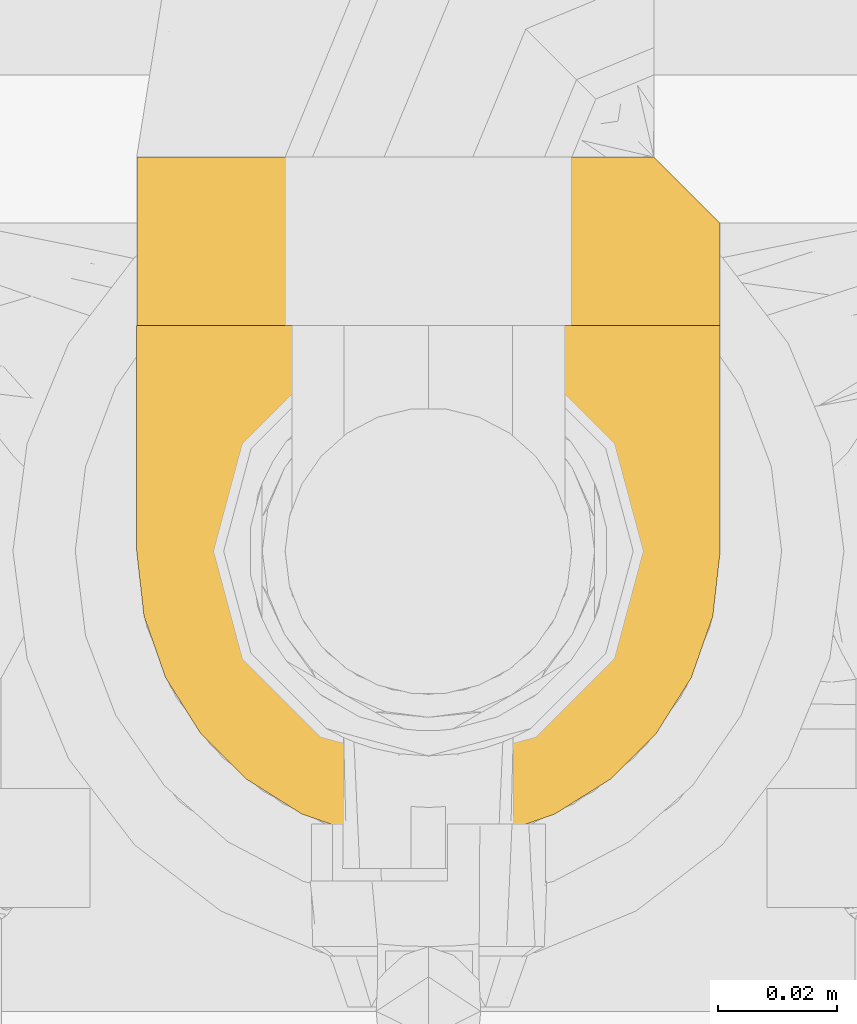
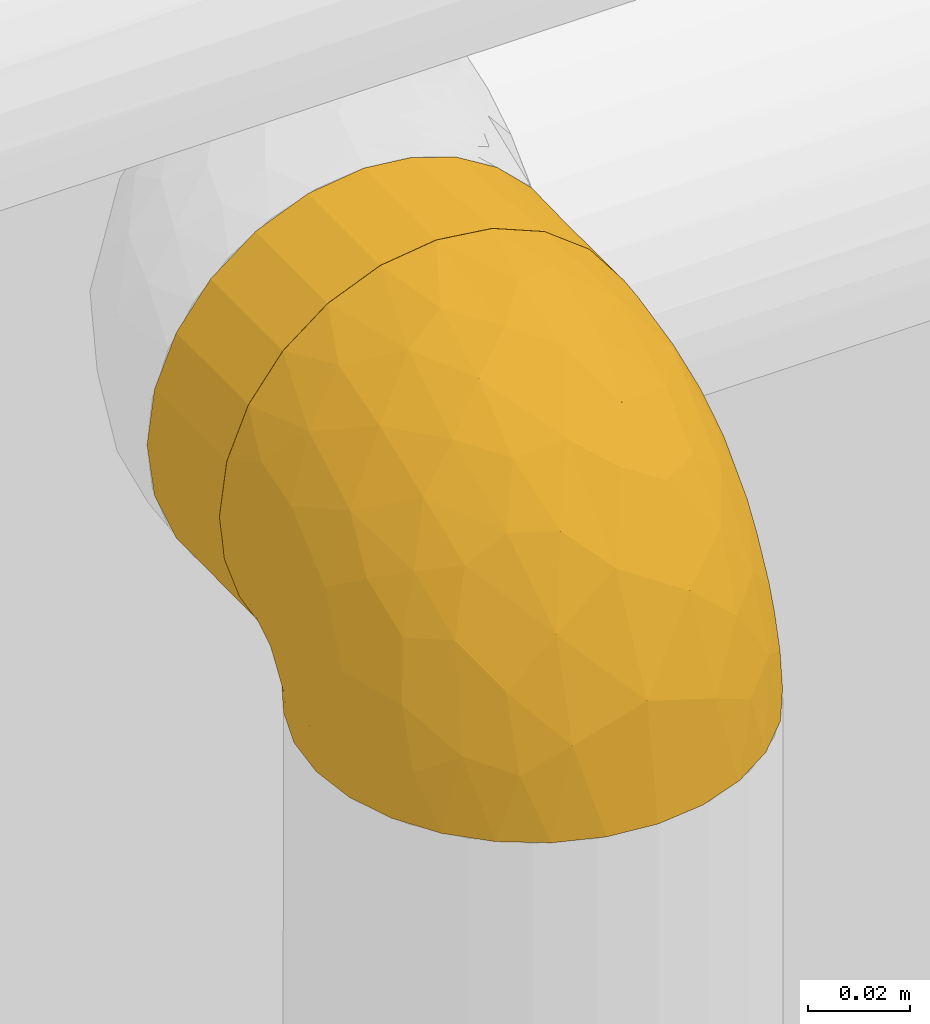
# One storey, part 20 of 94: 2 coverings.
"""IFC2X3 building model written with IfcOpenShell, lengths in millimetres."""

from ifc_helpers import new_model, entity, si_unit, converted_unit, derived_unit, direction, frame, origin, place, context, subcontext, project, spatial, faceted_brep, material, element, save


model = new_model("IFC2X3")

# Units and contexts
model_context = context("Model", 3, precision=0.01, world=origin(), true_north=direction((6.123031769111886e-17, 1.0)))
body_context = subcontext(model_context, "Body", "Model", "MODEL_VIEW")
ifc_project = project(units=[si_unit("LENGTHUNIT", "METRE", prefix="MILLI"), si_unit("AREAUNIT", "SQUARE_METRE"), si_unit("VOLUMEUNIT", "CUBIC_METRE"), converted_unit("PLANEANGLEUNIT", "DEGREE", entity("IfcRatioMeasure", 0.017453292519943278), si_unit("PLANEANGLEUNIT", "RADIAN"), dimensions=[0, 0, 0, 0, 0, 0, 0]), si_unit("MASSUNIT", "GRAM", prefix="KILO"), derived_unit("MASSDENSITYUNIT", [(si_unit("MASSUNIT", "GRAM", prefix="KILO"), 1), (si_unit("LENGTHUNIT", "METRE"), -3)]), derived_unit("IONCONCENTRATIONUNIT", [(si_unit("MASSUNIT", "GRAM", prefix="KILO"), 1), (si_unit("LENGTHUNIT", "METRE"), -3)]), derived_unit("MOMENTOFINERTIAUNIT", [(si_unit("LENGTHUNIT", "METRE"), 4)]), si_unit("TIMEUNIT", "SECOND"), si_unit("FREQUENCYUNIT", "HERTZ"), si_unit("THERMODYNAMICTEMPERATUREUNIT", "DEGREE_CELSIUS"), derived_unit("THERMALTRANSMITTANCEUNIT", [(si_unit("MASSUNIT", "GRAM", prefix="KILO"), 1), (si_unit("THERMODYNAMICTEMPERATUREUNIT", "KELVIN"), -1), (si_unit("TIMEUNIT", "SECOND"), -3)]), derived_unit("THERMALCONDUCTANCEUNIT", [(si_unit("MASSUNIT", "GRAM", prefix="KILO"), 1), (si_unit("THERMODYNAMICTEMPERATUREUNIT", "KELVIN"), -1), (si_unit("TIMEUNIT", "SECOND"), -3), (si_unit("LENGTHUNIT", "METRE"), 1)]), derived_unit("VOLUMETRICFLOWRATEUNIT", [(si_unit("LENGTHUNIT", "METRE"), 3), (si_unit("TIMEUNIT", "SECOND"), -1)]), derived_unit("MASSFLOWRATEUNIT", [(si_unit("MASSUNIT", "GRAM", prefix="KILO"), 1), (si_unit("TIMEUNIT", "SECOND"), -1)]), derived_unit("ROTATIONALFREQUENCYUNIT", [(si_unit("TIMEUNIT", "SECOND"), -1)]), si_unit("ELECTRICCURRENTUNIT", "AMPERE"), si_unit("ELECTRICVOLTAGEUNIT", "VOLT"), si_unit("POWERUNIT", "WATT"), si_unit("FORCEUNIT", "NEWTON", prefix="KILO"), si_unit("ILLUMINANCEUNIT", "LUX"), si_unit("LUMINOUSFLUXUNIT", "LUMEN"), si_unit("LUMINOUSINTENSITYUNIT", "CANDELA"), derived_unit("USERDEFINED", [(si_unit("MASSUNIT", "GRAM", prefix="KILO"), -1), (si_unit("LENGTHUNIT", "METRE"), -2), (si_unit("TIMEUNIT", "SECOND"), 3), (si_unit("LUMINOUSFLUXUNIT", "LUMEN"), 1)]), derived_unit("USERDEFINED", [(si_unit("MASSUNIT", "GRAM", prefix="KILO"), 1), (si_unit("TIMEUNIT", "SECOND"), -3), (si_unit("LENGTHUNIT", "METRE"), 3), (si_unit("ELECTRICCURRENTUNIT", "AMPERE"), -2)]), derived_unit("SOUNDPOWERUNIT", [(si_unit("MASSUNIT", "GRAM", prefix="KILO"), 1), (si_unit("TIMEUNIT", "SECOND"), -3), (si_unit("LENGTHUNIT", "METRE"), 2)]), derived_unit("SOUNDPRESSUREUNIT", [(si_unit("MASSUNIT", "GRAM", prefix="KILO"), 1), (si_unit("LENGTHUNIT", "METRE"), -1), (si_unit("TIMEUNIT", "SECOND"), -2)]), derived_unit("LINEARVELOCITYUNIT", [(si_unit("LENGTHUNIT", "METRE"), 1), (si_unit("TIMEUNIT", "SECOND"), -1)]), si_unit("PRESSUREUNIT", "PASCAL"), derived_unit("USERDEFINED", [(si_unit("MASSUNIT", "GRAM", prefix="KILO"), 1), (si_unit("LENGTHUNIT", "METRE"), -2), (si_unit("TIMEUNIT", "SECOND"), -2)]), derived_unit("LINEARFORCEUNIT", [(si_unit("MASSUNIT", "GRAM", prefix="KILO"), 1), (si_unit("TIMEUNIT", "SECOND"), -2)]), derived_unit("PLANARFORCEUNIT", [(si_unit("MASSUNIT", "GRAM", prefix="KILO"), 1), (si_unit("LENGTHUNIT", "METRE"), -1), (si_unit("TIMEUNIT", "SECOND"), -2)]), derived_unit("SPECIFICHEATCAPACITYUNIT", [(si_unit("THERMODYNAMICTEMPERATUREUNIT", "KELVIN"), -1), (si_unit("LENGTHUNIT", "METRE"), 2), (si_unit("TIMEUNIT", "SECOND"), -2)]), derived_unit("HEATINGVALUEUNIT", [(si_unit("LENGTHUNIT", "METRE"), 2), (si_unit("TIMEUNIT", "SECOND"), -2)]), derived_unit("VAPORPERMEABILITYUNIT", [(si_unit("LENGTHUNIT", "METRE"), -1), (si_unit("TIMEUNIT", "SECOND"), 1)]), derived_unit("DYNAMICVISCOSITYUNIT", [(si_unit("MASSUNIT", "GRAM", prefix="KILO"), 1), (si_unit("TIMEUNIT", "SECOND"), -1), (si_unit("LENGTHUNIT", "METRE"), -1)]), derived_unit("THERMALEXPANSIONCOEFFICIENTUNIT", [(si_unit("THERMODYNAMICTEMPERATUREUNIT", "KELVIN"), -1)]), derived_unit("MODULUSOFELASTICITYUNIT", [(si_unit("MASSUNIT", "GRAM", prefix="KILO"), 1), (si_unit("LENGTHUNIT", "METRE"), -1), (si_unit("TIMEUNIT", "SECOND"), -2)]), derived_unit("ISOTHERMALMOISTURECAPACITYUNIT", [(si_unit("LENGTHUNIT", "METRE"), 3), (si_unit("MASSUNIT", "GRAM", prefix="KILO"), -1)]), derived_unit("MOISTUREDIFFUSIVITYUNIT", [(si_unit("TIMEUNIT", "SECOND"), -1), (si_unit("LENGTHUNIT", "METRE"), 2)])], contexts=[model_context])

# Site, building, storey
site_placement = place(None, origin())
site = spatial("IfcSite", under=ifc_project, at=site_placement, Name="Default", CompositionType="ELEMENT")
building_placement = place(site_placement, origin())
building = spatial("IfcBuilding", under=site, at=building_placement, CompositionType="ELEMENT")
storey_placement = place(building_placement, origin())
storey = spatial("IfcBuildingStorey", under=building, at=storey_placement, Name="Niveau 0", CompositionType="ELEMENT", Elevation=0.0)

# Coverings
ifc_material = material(Name="Isolation - Laine minérale")
covering_1_placement = place(storey_placement, frame((-8622.871137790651, 9958.8752739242, 2600.7252722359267)))
element("IfcCovering", 1, at=covering_1_placement, inside=storey, material=ifc_material, Name="Isolation des canalisations:Laine minérale", ObjectType="Isolation des canalisations:Laine minérale", PredefinedType="INSULATION", context=body_context, shape_type="Brep", body=[
    faceted_brep([(12.012544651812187, 1.595272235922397, -80.97558831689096), (19.58435221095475, 1.5952722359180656, -88.72527223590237), (81.86619226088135, 1.5952722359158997, -88.72527223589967), (89.43799982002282, 1.5952722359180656, -80.9755883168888), (95.12737949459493, 1.5952722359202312, -71.75405657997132), (98.65694811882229, 1.5952722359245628, -61.51004608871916), (99.85527223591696, 1.5952722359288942, -50.72527223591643), (98.18120808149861, 1.5952722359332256, -38.00949255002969), (93.2731003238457, 1.595272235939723, -26.160272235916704), (85.46542839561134, 1.5952722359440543, -15.985116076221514), (75.29027223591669, 1.5952722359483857, -8.17744414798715), (63.4410519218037, 1.5952722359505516, -3.269336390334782), (50.72527223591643, 1.5952722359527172, -1.5952722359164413), (38.00949255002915, 1.5952722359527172, -3.269336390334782), (26.160272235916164, 1.5952722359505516, -8.17744414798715), (15.985116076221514, 1.5952722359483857, -15.985116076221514), (8.17744414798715, 1.5952722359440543, -26.160272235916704), (3.26933639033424, 1.595272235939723, -38.00949255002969), (1.5952722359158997, 1.5952722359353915, -50.72527223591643), (2.793596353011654, 1.5952722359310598, -61.510046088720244), (6.323164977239, 1.5952722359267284, -71.75405657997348), (61.51004608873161, 29.970350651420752, -98.65694811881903), (50.72527223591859, 29.970350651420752, -99.85527223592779), (38.00949255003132, 29.97035065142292, -98.18120808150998), (26.160272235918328, 29.970350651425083, -93.27310032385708), (15.98511607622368, 29.970350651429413, -85.46542839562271), (8.177444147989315, 29.970350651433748, -75.29027223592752), (3.269336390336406, 29.970350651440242, -63.44105192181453), (1.5952722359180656, 29.970350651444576, -50.7252722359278), (3.269336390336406, 29.970350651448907, -38.00949255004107), (8.177444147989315, 29.970350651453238, -26.160272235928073), (15.98511607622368, 29.97035065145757, -15.985116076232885), (26.160272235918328, 29.970350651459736, -8.17744414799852), (38.00949255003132, 29.9703506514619, -3.269336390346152), (50.72527223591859, 29.9703506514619, -1.5952722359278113), (61.5100460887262, 29.970350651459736, -2.7935963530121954), (71.75405657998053, 29.97035065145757, -6.323164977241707), (80.975588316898, 29.970350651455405, -12.012544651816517), (88.72527223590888, 29.97035065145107, -19.584352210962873), (88.72527223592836, 29.97035065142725, -81.86619226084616), (80.97558831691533, 29.97035065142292, -89.43799982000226), (71.75405657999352, 29.97035065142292, -95.12737949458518), (34.19020495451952, 9.85917230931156, -96.9891723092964), (42.33445912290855, 12.003444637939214, -99.13344463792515), (50.72527223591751, 12.725272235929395, -99.85527223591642), (26.531823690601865, 6.3554633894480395, -93.48546338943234), (59.116085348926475, 12.003444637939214, -99.1334446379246), (67.26033951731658, 9.859172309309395, -96.98917230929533), (74.91872078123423, 6.355463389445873, -93.48546338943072), (93.48546338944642, 25.21015949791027, -74.91872078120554), (96.98917230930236, 21.706450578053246, -67.26033951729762), (99.13344463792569, 19.562178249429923, -59.116085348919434), (99.85527223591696, 18.840350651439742, -50.72527223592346), (99.13344463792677, 19.56217824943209, -42.33445912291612), (96.98917230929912, 21.70645057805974, -34.190204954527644), (93.48546338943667, 25.210159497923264, -26.531823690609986)], [[[0, 1, 2, 3, 4, 5, 6, 7, 8, 9, 10, 11, 12, 13, 14, 15, 16, 17, 18, 19, 20]], [[21, 22, 23, 24, 25, 26, 27, 28, 29, 30, 31, 32, 33, 34, 35, 36, 37, 38, 39, 40, 41]], [[19, 28, 27]], [[27, 26, 20]], [[25, 0, 26]], [[18, 28, 19]], [[20, 19, 27]], [[0, 20, 26]], [[25, 1, 0]], [[42, 24, 23]], [[23, 22, 43]], [[44, 43, 22]], [[1, 25, 45]], [[43, 42, 23]], [[45, 24, 42]], [[45, 25, 24]], [[46, 22, 21]], [[21, 41, 47]], [[40, 48, 41]], [[46, 44, 22]], [[48, 47, 41]], [[2, 48, 40]], [[46, 21, 47]], [[40, 39, 2]], [[39, 49, 3]], [[50, 51, 5]], [[49, 50, 4]], [[3, 49, 4]], [[51, 6, 5]], [[5, 4, 50]], [[6, 51, 52]], [[39, 3, 2]], [[53, 54, 7]], [[8, 55, 9]], [[54, 55, 8]], [[52, 53, 6]], [[6, 53, 7]], [[54, 8, 7]], [[55, 38, 9]], [[10, 37, 36]], [[36, 35, 11]], [[34, 12, 35]], [[9, 37, 10]], [[11, 10, 36]], [[12, 11, 35]], [[37, 9, 38]], [[12, 34, 33, 13]], [[13, 33, 32, 14]], [[14, 32, 31, 15]], [[16, 30, 29, 17]], [[17, 29, 28, 18]], [[15, 31, 30, 16]], [[45, 42, 43, 44, 46, 47, 48, 2, 1]], [[38, 55, 54, 53, 52, 51, 50, 49, 39]]]),
])
covering_2_placement = place(storey_placement, frame((-8622.89113779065, 9871.725273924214, 2510.4047277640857)))
element("IfcCovering", 2, at=covering_2_placement, inside=storey, material=ifc_material, Name="Isolation des canalisations:Laine minérale", ObjectType="Isolation des canalisations:Laine minérale", PredefinedType="INSULATION", context=body_context, shape_type="Brep", body=[
    faceted_brep([(95.02415814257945, 29.412134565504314, 1.5952722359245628), (89.1663101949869, 20.093252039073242, 1.5952722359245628), (81.38263886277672, 12.312548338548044, 1.5952722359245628), (72.06354573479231, 6.459227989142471, 1.5952722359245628), (61.67593083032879, 2.826140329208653, 1.5952722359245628), (50.74527223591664, 1.5952722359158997, 1.5952722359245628), (39.802903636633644, 2.8288129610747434, 1.5952722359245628), (29.412134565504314, 6.466386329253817, 1.5952722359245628), (20.093252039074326, 12.324234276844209, 1.5952722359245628), (12.312548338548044, 20.107905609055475, 1.5952722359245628), (6.459227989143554, 29.426998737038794, 1.5952722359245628), (2.8261403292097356, 39.81461364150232, 1.5952722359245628), (1.5952722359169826, 50.74527223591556, 1.5952722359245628), (2.765001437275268, 61.40435822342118, 1.5952722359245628), (6.216868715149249, 71.55257335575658, 1.5952722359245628), (11.785042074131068, 80.70896636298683, 1.5952722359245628), (19.19437336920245, 88.43165280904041, 1.5952722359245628), (21.638642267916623, 88.43165280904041, 1.5952722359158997), (23.415694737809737, 88.43165280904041, 1.5952722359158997), (25.192747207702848, 88.43165280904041, 1.5952722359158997), (26.692340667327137, 88.43165280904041, 1.5952722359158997), (28.191934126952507, 88.43165280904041, 1.5952722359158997), (31.191121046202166, 88.43165280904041, 1.5952722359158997), (34.19030796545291, 88.43165280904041, 1.5952722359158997), (37.18949488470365, 88.43165280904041, 1.5952722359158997), (40.18868180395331, 88.43165280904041, 1.5952722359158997), (41.688275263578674, 88.43165280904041, 1.5952722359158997), (43.18786872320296, 88.43165280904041, 1.5952722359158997), (45.63213762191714, 88.43165280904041, 1.5952722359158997), (48.07640652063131, 88.43165280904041, 1.5952722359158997), (50.52067541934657, 88.43165280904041, 1.5952722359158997), (52.96494431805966, 88.43165280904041, 1.5952722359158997), (55.40921321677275, 88.43165280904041, 1.5952722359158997), (57.853482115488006, 88.43165280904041, 1.5952722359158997), (60.297751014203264, 88.43165280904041, 1.5952722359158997), (62.742019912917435, 88.43165280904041, 1.5952722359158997), (65.18628881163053, 88.43165280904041, 1.5952722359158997), (67.6305577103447, 88.43165280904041, 1.5952722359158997), (70.07482660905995, 88.43165280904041, 1.5952722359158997), (72.51909550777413, 88.43165280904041, 1.5952722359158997), (74.96336440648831, 88.43165280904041, 1.5952722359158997), (77.4076333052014, 88.43165280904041, 1.5952722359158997), (79.85190220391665, 88.43165280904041, 1.5952722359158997), (82.29617110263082, 88.43165280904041, 1.5952722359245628), (89.71827412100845, 80.69235262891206, 1.5952722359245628), (95.2836857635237, 71.53113811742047, 1.5952722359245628), (98.73008326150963, 61.3839004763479, 1.5952722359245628), (99.8952722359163, 50.74527223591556, 1.5952722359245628), (98.66173151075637, 39.80290363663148, 1.5952722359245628), (11.777056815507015, 88.74527223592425, 9.641963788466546), (6.211862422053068, 88.74527223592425, 18.798688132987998), (2.763298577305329, 88.74527223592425, 28.94385431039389), (1.5952722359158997, 88.74527223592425, 39.59527223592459), (3.2700178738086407, 88.74527223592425, 52.31622830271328), (8.180123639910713, 88.74527223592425, 64.17027223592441), (15.990973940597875, 88.74527223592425, 74.34957053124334), (26.17027223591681, 88.74527223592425, 82.16042083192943), (38.0243161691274, 88.74527223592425, 87.07052659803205), (50.74527223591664, 88.74527223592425, 88.74527223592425), (63.46622830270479, 88.74527223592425, 87.07052659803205), (75.32027223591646, 88.74527223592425, 82.16042083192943), (85.4995705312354, 88.74527223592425, 74.34957053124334), (93.31042083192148, 88.74527223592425, 64.17027223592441), (98.22052659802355, 88.74527223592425, 52.31622830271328), (99.8952722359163, 88.74527223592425, 39.59527223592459), (98.72724589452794, 88.74527223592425, 28.94385431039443), (95.2786820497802, 88.74527223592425, 18.798688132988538), (89.71348765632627, 88.74527223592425, 9.641963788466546), (82.29617110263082, 88.74527223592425, 1.9088916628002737), (79.85190220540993, 88.74527223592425, 1.9088916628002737), (78.35230874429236, 88.74527223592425, 1.9088916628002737), (76.3803775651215, 88.74527223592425, 1.9088916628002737), (74.40844638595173, 88.74527223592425, 1.9088916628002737), (72.43651520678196, 88.74527223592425, 1.9088916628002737), (70.46458402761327, 88.74527223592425, 1.9088916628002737), (68.4926528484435, 88.74527223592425, 1.9088916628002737), (66.52072166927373, 88.74527223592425, 1.9088916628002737), (64.54879049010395, 88.74527223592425, 1.9088916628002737), (62.57685931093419, 88.74527223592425, 1.9088916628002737), (60.6049281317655, 88.74527223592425, 1.9088916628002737), (58.632996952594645, 88.74527223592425, 1.9088916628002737), (56.66106577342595, 88.74527223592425, 1.9088916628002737), (54.68913459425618, 88.74527223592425, 1.9088916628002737), (52.71720341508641, 88.74527223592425, 1.9088916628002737), (50.74527223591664, 88.74527223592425, 1.9088916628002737), (48.773341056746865, 88.74527223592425, 1.9088916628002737), (46.80140987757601, 88.74527223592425, 1.9088916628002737), (44.8294786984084, 88.74527223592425, 1.9088916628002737), (42.85754751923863, 88.74527223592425, 1.9088916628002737), (40.88561634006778, 88.74527223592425, 1.908891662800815), (38.913685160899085, 88.74527223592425, 1.908891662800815), (36.94175398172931, 88.74527223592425, 1.9088916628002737), (34.96982280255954, 88.74527223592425, 1.9088916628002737), (31.970635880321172, 88.74527223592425, 1.9088916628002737), (28.971448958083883, 88.74527223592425, 1.9088916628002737), (26.5271800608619, 88.74527223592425, 1.9088916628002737), (24.082911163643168, 88.74527223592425, 1.9088916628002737), (21.638642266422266, 88.74527223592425, 1.9088916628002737), (19.19437336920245, 88.74527223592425, 1.908891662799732), (53.7533397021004, 88.53090125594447, 1.8241875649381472), (51.832765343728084, 88.52210831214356, 1.8156242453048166), (61.47290163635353, 88.52122178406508, 1.8147227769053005), (63.56282540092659, 88.5277799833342, 1.821224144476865), (48.00102702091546, 88.5409253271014, 1.8331787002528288), (77.2499939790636, 88.53506454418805, 1.828016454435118), (80.6991383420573, 88.49130573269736, 1.7792781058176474), (42.43807145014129, 88.51810292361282, 1.8114926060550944), (22.860776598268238, 88.52350981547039, 1.8170346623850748), (24.700216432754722, 88.52548149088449, 1.8189889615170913), (71.37008955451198, 88.5165327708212, 1.809830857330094), (73.40383885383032, 88.52674320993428, 1.820221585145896), (44.41000264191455, 88.5046900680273, 1.796462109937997), (37.92771907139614, 88.52964682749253, 1.8230063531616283), (39.81308540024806, 88.53317608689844, 1.8262968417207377), (35.95578792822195, 88.51585328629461, 1.8091041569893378), (49.75930651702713, 88.52914218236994, 1.8225274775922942), (21.027574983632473, 88.5259180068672, 1.8194169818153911), (55.67510065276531, 88.5366490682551, 1.8294378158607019), (67.50668767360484, 88.5374788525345, 1.8301744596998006), (65.61454699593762, 88.53273195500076, 1.8258883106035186), (34.10458092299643, 88.53426299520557, 1.8272900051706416), (57.55217518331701, 88.53370000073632, 1.8267767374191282), (79.10210557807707, 88.52350981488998, 1.8170346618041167), (75.39441218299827, 88.53493173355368, 1.8278964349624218), (82.29617110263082, 88.5235098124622, 1.8170346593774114), (82.29617110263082, 88.49487979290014, 1.747915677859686), (82.2961711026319, 88.46624977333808, 1.6787966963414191), (19.19437336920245, 88.5235098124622, 1.8170346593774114), (19.19437336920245, 88.59262879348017, 1.8456646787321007), (19.19437336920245, 88.66174777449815, 1.8742946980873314), (32.212157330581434, 88.51000647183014, 1.8026539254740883), (69.43559223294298, 88.5304248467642, 1.823740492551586), (46.24828797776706, 88.52246762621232, 1.81598755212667), (59.49061335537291, 88.52470424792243, 1.8182226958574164), (29.419252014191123, 88.50579329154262, 1.7977740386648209), (27.44213716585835, 88.52744143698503, 1.820897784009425), (82.29617110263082, 88.66174777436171, 1.8742946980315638), (82.29617110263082, 88.59262879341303, 1.845664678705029), (19.19437336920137, 88.46624977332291, 1.6787966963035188), (19.19437336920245, 88.49487979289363, 1.7479156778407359), (4.210283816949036, 85.22080157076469, 23.495219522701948), (8.74417984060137, 85.93611072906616, 13.747756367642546), (4.210283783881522, 81.07807843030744, 22.409779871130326), (9.955583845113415, 83.13289242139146, 10.562522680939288), (1.5952722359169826, 79.24527223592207, 37.049754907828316), (1.5952722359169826, 81.28890223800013, 37.59734391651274), (1.5952722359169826, 55.83630689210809, 20.595272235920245), (2.935497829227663, 66.39553001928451, 16.020149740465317), (4.213452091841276, 67.94040403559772, 9.261677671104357), (1.5952722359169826, 69.7452722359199, 34.50423757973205), (9.405305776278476, 80.67378389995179, 9.667897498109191), (9.963487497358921, 79.78892094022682, 7.202912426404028), (2.9356418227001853, 74.32109358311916, 23.94474674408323), (4.213452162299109, 66.85470593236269, 5.119390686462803), (8.750654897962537, 76.60336361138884, 4.402893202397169), (5.690627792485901, 79.64911936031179, 17.541506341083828), (1.5952722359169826, 52.74320051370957, 9.051642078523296), (1.5952722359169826, 53.290789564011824, 11.095272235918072), (4.482619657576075, 73.61168493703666, 16.72885944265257), (1.5952722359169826, 62.790789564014, 27.549754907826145), (5.766057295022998, 73.87988529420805, 12.071559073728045), (2.6117250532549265, 75.3291367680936, 47.62395095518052), (2.6575317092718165, 65.91074185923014, 44.00144112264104), (11.131578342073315, 53.84761415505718, 58.899698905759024), (20.824647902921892, 59.13651173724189, 72.66771487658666), (11.751954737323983, 71.16612245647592, 67.20155656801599), (5.33659242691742, 67.00545271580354, 54.07984229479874), (5.33659286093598, 78.88051287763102, 57.54110754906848), (50.74527223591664, 37.51978749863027, 72.10110329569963), (50.74527223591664, 61.81444117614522, 84.4798476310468), (40.3397395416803, 53.87520138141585, 80.24801351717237), (9.12424327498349, 25.78494399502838, 13.851436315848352), (4.35104531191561, 36.244182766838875, 15.165285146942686), (32.6469542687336, 29.562882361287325, 60.77765845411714), (23.76890934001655, 30.77068194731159, 55.385836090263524), (35.61531809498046, 15.292222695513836, 43.89737524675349), (41.69613385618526, 71.31385843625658, 86.12648113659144), (30.50981773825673, 47.24102741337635, 73.23168363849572), (21.748430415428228, 43.50389303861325, 64.7473857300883), (20.824647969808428, 75.28985257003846, 77.40373146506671), (31.9363827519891, 67.10273039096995, 82.14716981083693), (15.984346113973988, 37.099200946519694, 52.82911549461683), (9.50970334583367, 44.515176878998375, 48.878965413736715), (11.405769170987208, 33.70477633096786, 40.607220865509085), (3.723532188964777, 44.051694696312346, 28.76995319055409), (9.124242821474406, 30.04408126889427, 27.448445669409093), (15.984347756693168, 18.312338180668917, 19.800365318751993), (50.74527223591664, 5.860696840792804, 28.52610329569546), (34.505351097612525, 7.041406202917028, 22.71562192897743), (18.53593481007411, 25.61446965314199, 42.31748570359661), (24.58819413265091, 15.886915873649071, 33.6838277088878), (24.58819389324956, 10.600409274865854, 16.806973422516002), (39.07585882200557, 38.50378416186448, 71.0785805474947), (42.346184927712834, 25.345180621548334, 60.332491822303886), (2.5632520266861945, 53.16350413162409, 33.37332146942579), (50.74527223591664, 18.23944117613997, 52.82075697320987), (4.72244931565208, 52.69469876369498, 43.46542968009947), (69.55416102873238, 58.175892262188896, 79.2001746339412), (59.58510784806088, 71.7009127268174, 86.24488809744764), (59.865425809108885, 54.574333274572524, 80.83807017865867), (66.13789702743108, 42.49805076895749, 72.52816019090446), (69.55416221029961, 75.0623548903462, 83.87397883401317), (85.49332197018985, 24.525141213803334, 35.798660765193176), (78.98858976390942, 25.786342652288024, 48.02046276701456), (76.8874308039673, 15.878231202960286, 33.68736739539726), (85.49294527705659, 37.089792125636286, 52.83844921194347), (78.28666517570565, 35.7133620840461, 59.75598123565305), (97.13479117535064, 36.23150879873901, 15.170016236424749), (98.9530358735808, 70.53804152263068, 45.55141709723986), (99.8952722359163, 69.7452722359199, 34.50423757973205), (99.8952722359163, 79.24527223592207, 37.049754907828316), (66.97173870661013, 7.036299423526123, 22.71467774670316), (80.66589652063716, 69.2408611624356, 76.07714087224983), (92.35692696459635, 30.030512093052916, 27.45465165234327), (92.35692651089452, 25.770245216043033, 13.854008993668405), (89.7385894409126, 76.87540408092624, 68.47065883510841), (96.15395178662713, 74.00473445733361, 56.45843349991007), (79.62483877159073, 48.41047025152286, 68.08854506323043), (89.73859028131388, 62.62553049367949, 64.29272071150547), (59.50815922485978, 31.2207767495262, 66.01125638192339), (68.83452868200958, 29.56034539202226, 60.78019542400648), (99.01263503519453, 79.82666983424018, 48.01911236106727), (76.88743104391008, 10.591274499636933, 16.809109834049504), (65.85652255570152, 15.28724730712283, 43.900853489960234), (85.49294363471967, 18.29950680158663, 19.803681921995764), (97.76388503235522, 44.049870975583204, 28.786726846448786), (99.8952722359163, 55.83630689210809, 20.595272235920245), (98.78930951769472, 54.235362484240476, 35.485066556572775), (99.8952722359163, 62.790789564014, 27.549754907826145), (99.89527223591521, 52.74320051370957, 9.051642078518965), (99.8952722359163, 53.290789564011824, 11.095272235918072), (91.50386042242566, 48.41211537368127, 53.16291239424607), (96.4268312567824, 64.14304703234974, 52.05308452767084), (93.14991945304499, 40.10640265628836, 41.401037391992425), (99.08337182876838, 62.890734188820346, 40.721221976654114), (86.0910755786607, 47.67277833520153, 60.91677547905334), (96.67816905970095, 55.389558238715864, 45.94061161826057), (97.2802602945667, 81.0780784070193, 22.409778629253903), (95.72662397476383, 78.26566497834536, 16.46425424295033), (98.5546584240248, 74.32072912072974, 23.943292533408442), (97.28026045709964, 85.22080145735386, 23.495218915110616), (92.74636428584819, 85.93611080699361, 13.74775580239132), (91.53641117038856, 83.13257230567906, 10.564867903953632), (90.11275627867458, 82.68198005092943, 7.656624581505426), (97.00519514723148, 73.61706381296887, 16.72348133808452), (91.54965419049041, 79.75777141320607, 7.216517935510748), (97.28427045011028, 67.91845358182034, 9.263185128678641), (97.28427059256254, 66.83334757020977, 5.1195933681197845), (92.75147496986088, 76.5844900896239, 4.405878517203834), (98.55441347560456, 66.39770760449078, 16.01862728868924), (95.80583125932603, 72.78382599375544, 10.692146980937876)], [[[0, 1, 2, 3, 4, 5, 6, 7, 8, 9, 10, 11, 12, 13, 14, 15, 16, 17, 18, 19, 20, 21, 22, 23, 24, 25, 26, 27, 28, 29, 30, 31, 32, 33, 34, 35, 36, 37, 38, 39, 40, 41, 42, 43, 44, 45, 46, 47, 48]], [[49, 50, 51, 52, 53, 54, 55, 56, 57, 58, 59, 60, 61, 62, 63, 64, 65, 66, 67, 68, 69, 70, 71, 72, 73, 74, 75, 76, 77, 78, 79, 80, 81, 82, 83, 84, 85, 86, 87, 88, 89, 90, 91, 92, 93, 94, 95, 96, 97, 98]], [[99, 100, 83]], [[101, 102, 35]], [[85, 103, 86]], [[71, 70, 104]], [[105, 69, 68]], [[27, 26, 106]], [[18, 107, 108]], [[109, 73, 110]], [[28, 27, 111]], [[25, 112, 113]], [[108, 96, 95]], [[114, 92, 91]], [[103, 85, 115]], [[96, 107, 97]], [[107, 17, 116]], [[78, 102, 101]], [[99, 117, 32]], [[76, 118, 119]], [[120, 92, 114]], [[112, 90, 113]], [[88, 111, 106]], [[40, 39, 110]], [[107, 96, 108]], [[32, 117, 121]], [[91, 90, 112]], [[37, 119, 118]], [[84, 115, 85]], [[69, 105, 122]], [[71, 123, 72]], [[105, 124, 125, 126, 43]], [[116, 17, 16]], [[122, 70, 69]], [[41, 122, 42]], [[116, 127, 128, 129, 98]], [[110, 123, 40]], [[42, 122, 105]], [[120, 23, 130]], [[24, 114, 112]], [[114, 24, 23]], [[104, 123, 71]], [[91, 112, 114]], [[104, 122, 41]], [[24, 112, 25]], [[110, 72, 123]], [[36, 119, 37]], [[40, 123, 41]], [[74, 73, 109]], [[131, 75, 74]], [[118, 131, 37]], [[109, 110, 39]], [[109, 39, 38]], [[73, 72, 110]], [[123, 104, 41]], [[122, 104, 70]], [[26, 25, 113]], [[113, 89, 106]], [[87, 86, 132]], [[113, 106, 26]], [[76, 75, 118]], [[132, 111, 87]], [[106, 111, 27]], [[132, 28, 111]], [[87, 111, 88]], [[88, 106, 89]], [[113, 90, 89]], [[131, 118, 75]], [[38, 37, 131]], [[119, 36, 102]], [[131, 109, 38]], [[109, 131, 74]], [[78, 77, 102]], [[77, 119, 102]], [[77, 76, 119]], [[121, 80, 133]], [[36, 35, 102]], [[33, 121, 133]], [[79, 78, 101]], [[34, 101, 35]], [[132, 29, 28]], [[80, 79, 133]], [[29, 103, 115]], [[30, 29, 115]], [[86, 103, 132]], [[100, 115, 84]], [[31, 30, 100]], [[115, 100, 30]], [[32, 31, 99]], [[117, 81, 121]], [[100, 84, 83]], [[99, 82, 117]], [[81, 117, 82]], [[33, 32, 121]], [[82, 99, 83]], [[100, 99, 31]], [[34, 33, 133]], [[121, 81, 80]], [[133, 101, 34]], [[101, 133, 79]], [[134, 94, 93]], [[23, 120, 114]], [[132, 103, 29]], [[120, 93, 92]], [[93, 120, 130]], [[97, 107, 116]], [[108, 20, 19, 18]], [[21, 135, 134]], [[20, 135, 21]], [[134, 135, 94]], [[108, 95, 135]], [[108, 135, 20]], [[135, 95, 94]], [[134, 22, 21]], [[130, 22, 134]], [[42, 105, 43]], [[105, 68, 136, 137, 124]], [[97, 116, 98]], [[116, 16, 138, 139, 127]], [[18, 17, 107]], [[93, 130, 134]], [[22, 130, 23]], [[140, 141, 142]], [[143, 129, 128, 127]], [[51, 144, 145, 52]], [[146, 147, 148]], [[142, 149, 144]], [[150, 127, 151]], [[50, 140, 51]], [[142, 152, 149]], [[51, 140, 144]], [[129, 143, 141]], [[14, 13, 153]], [[148, 151, 154]], [[155, 141, 143]], [[151, 138, 154]], [[14, 153, 154]], [[16, 15, 138]], [[13, 12, 156, 157]], [[152, 155, 158]], [[159, 158, 147]], [[157, 148, 153]], [[14, 154, 15]], [[49, 98, 129]], [[49, 129, 141]], [[141, 50, 49]], [[160, 148, 147]], [[146, 148, 157]], [[138, 15, 154]], [[150, 158, 155]], [[151, 127, 139, 138]], [[141, 140, 50]], [[144, 140, 142]], [[157, 153, 13]], [[154, 153, 148]], [[149, 152, 159]], [[160, 147, 158]], [[147, 146, 159]], [[155, 152, 142]], [[159, 152, 158]], [[127, 150, 143]], [[160, 150, 151]], [[150, 160, 158]], [[148, 160, 151]], [[141, 155, 142]], [[155, 143, 150]], [[156, 12, 11]], [[161, 149, 162]], [[163, 164, 165]], [[166, 167, 161]], [[168, 169, 170]], [[54, 165, 55]], [[171, 172, 10]], [[173, 174, 175]], [[57, 176, 58]], [[173, 177, 178]], [[179, 56, 55]], [[54, 167, 165]], [[170, 180, 177]], [[56, 179, 180]], [[167, 54, 53]], [[181, 182, 183]], [[184, 146, 172]], [[172, 185, 184]], [[186, 185, 171]], [[186, 9, 8]], [[172, 146, 157, 156]], [[172, 11, 10]], [[173, 178, 174]], [[6, 187, 188]], [[189, 186, 190]], [[191, 186, 8]], [[175, 190, 188]], [[168, 192, 193]], [[189, 190, 174]], [[56, 180, 57]], [[8, 7, 191]], [[188, 7, 6]], [[6, 5, 187]], [[190, 191, 188]], [[159, 194, 162]], [[175, 187, 195]], [[177, 180, 164]], [[10, 9, 171]], [[176, 180, 170]], [[156, 11, 172]], [[163, 165, 166]], [[179, 165, 164]], [[53, 52, 145]], [[185, 189, 183]], [[184, 196, 194]], [[188, 191, 7]], [[186, 191, 190]], [[186, 171, 9]], [[172, 171, 185]], [[187, 175, 188]], [[193, 175, 195]], [[196, 163, 166]], [[163, 181, 178]], [[162, 166, 161]], [[184, 185, 183]], [[178, 177, 164]], [[177, 192, 170]], [[177, 173, 192]], [[176, 170, 169]], [[58, 176, 169]], [[57, 180, 176]], [[193, 192, 173]], [[168, 170, 192]], [[175, 193, 173]], [[168, 193, 195]], [[163, 178, 164]], [[184, 194, 146]], [[178, 181, 174]], [[189, 174, 181]], [[175, 174, 190]], [[183, 189, 181]], [[186, 189, 185]], [[182, 181, 163]], [[183, 182, 184]], [[163, 196, 182]], [[184, 182, 196]], [[165, 179, 55]], [[180, 179, 164]], [[161, 53, 145]], [[165, 167, 166]], [[53, 161, 167]], [[161, 145, 144, 149]], [[159, 162, 149]], [[196, 166, 162]], [[162, 194, 196]], [[146, 194, 159]], [[197, 198, 199]], [[58, 169, 198]], [[197, 199, 200]], [[198, 197, 201]], [[202, 203, 204]], [[60, 59, 201]], [[205, 206, 203]], [[0, 48, 207]], [[208, 209, 210]], [[187, 4, 211]], [[201, 212, 60]], [[213, 214, 207]], [[61, 215, 62]], [[62, 215, 216]], [[3, 211, 4]], [[217, 218, 212]], [[219, 220, 200]], [[216, 208, 221]], [[3, 2, 222]], [[62, 216, 63]], [[61, 60, 212]], [[211, 3, 222]], [[5, 4, 187]], [[217, 197, 200]], [[203, 223, 204]], [[2, 1, 224]], [[225, 213, 207]], [[204, 222, 224]], [[1, 0, 214]], [[204, 224, 202]], [[207, 226, 225]], [[227, 226, 228]], [[223, 211, 204]], [[214, 224, 1]], [[202, 224, 213]], [[48, 47, 229]], [[207, 229, 230, 226]], [[211, 223, 187]], [[218, 231, 232]], [[48, 229, 207]], [[205, 233, 231]], [[233, 213, 225]], [[217, 212, 197]], [[215, 212, 218]], [[228, 234, 227]], [[233, 205, 202]], [[208, 234, 209]], [[63, 221, 64]], [[235, 205, 231]], [[207, 214, 0]], [[224, 214, 213]], [[224, 222, 2]], [[211, 222, 204]], [[219, 223, 220]], [[187, 223, 195]], [[227, 233, 225]], [[234, 228, 209]], [[231, 233, 236]], [[221, 208, 210]], [[232, 208, 216]], [[64, 221, 210]], [[216, 221, 63]], [[233, 202, 213]], [[203, 202, 205]], [[205, 235, 206]], [[223, 203, 220]], [[200, 206, 217]], [[220, 203, 206]], [[232, 231, 236]], [[235, 218, 217]], [[212, 215, 61]], [[216, 215, 218]], [[218, 232, 216]], [[234, 232, 236]], [[232, 234, 208]], [[234, 236, 227]], [[233, 227, 236]], [[226, 227, 225]], [[198, 201, 59]], [[212, 201, 197]], [[58, 198, 59]], [[198, 169, 199]], [[169, 168, 199]], [[219, 200, 199]], [[219, 199, 168]], [[200, 220, 206]], [[168, 195, 219]], [[223, 219, 195]], [[218, 235, 231]], [[206, 235, 217]], [[65, 64, 210]], [[209, 237, 210]], [[238, 237, 239]], [[66, 240, 241]], [[242, 136, 241]], [[243, 137, 242]], [[243, 244, 245]], [[65, 240, 66]], [[136, 68, 67]], [[136, 67, 241]], [[246, 226, 230]], [[66, 241, 67]], [[210, 237, 240]], [[45, 247, 46]], [[209, 239, 237]], [[246, 247, 248]], [[46, 247, 230]], [[249, 250, 244]], [[239, 228, 244]], [[226, 246, 249]], [[250, 248, 245]], [[44, 43, 126]], [[237, 242, 241]], [[248, 45, 44]], [[44, 126, 248]], [[46, 230, 229, 47]], [[245, 126, 125]], [[126, 245, 248]], [[243, 124, 137]], [[210, 240, 65]], [[241, 240, 237]], [[248, 247, 45]], [[230, 247, 246]], [[226, 249, 228]], [[238, 239, 244]], [[239, 209, 228]], [[250, 249, 246]], [[228, 249, 244]], [[243, 242, 238]], [[136, 242, 137]], [[124, 243, 125]], [[125, 243, 245]], [[243, 238, 244]], [[237, 238, 242]], [[248, 250, 246]], [[244, 250, 245]]]),
])

save(model, "model.ifc")
